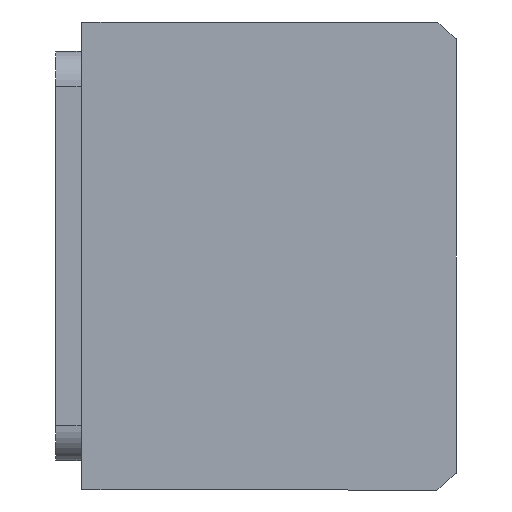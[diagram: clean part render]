
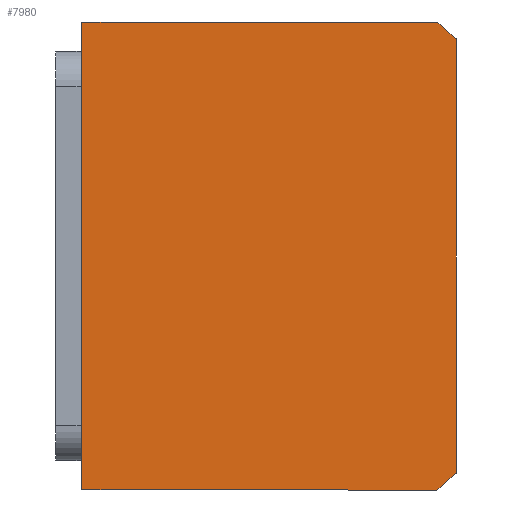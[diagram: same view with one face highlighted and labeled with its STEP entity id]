
A CAD part, front view. The second image highlights one B-rep face of the part: STEP entity #7980.
In plain terms, the highlighted planar face has unit normal (0, -1, 0) as drawn and (0, 0, -1) by its records, which use the part's own axes.
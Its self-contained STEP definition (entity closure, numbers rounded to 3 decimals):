
#222 = DIRECTION ( 'NONE',  ( 0., 1., 0. ) ) ;
#390 = CARTESIAN_POINT ( 'NONE',  ( 37.094, -75.507, 0. ) ) ;
#2356 = LINE ( 'NONE', #3368, #13326 ) ;
#2449 = DIRECTION ( 'NONE',  ( 0., 0., 1. ) ) ;
#2483 = CIRCLE ( 'NONE', #13262, 51. ) ;
#2883 = EDGE_LOOP ( 'NONE', ( #4196, #6240, #6348, #3113, #5682, #13753 ) ) ;
#3113 = ORIENTED_EDGE ( 'NONE', *, *, #3347, .F. ) ;
#3145 = AXIS2_PLACEMENT_3D ( 'NONE', #11965, #2449, #9822 ) ;
#3347 = EDGE_CURVE ( 'NONE', #3544, #9446, #6470, .T. ) ;
#3368 = CARTESIAN_POINT ( 'NONE',  ( -40., -11.507, 0. ) ) ;
#3544 = VERTEX_POINT ( 'NONE', #10928 ) ;
#3768 = CARTESIAN_POINT ( 'NONE',  ( 0., -40.507, 0. ) ) ;
#4196 = ORIENTED_EDGE ( 'NONE', *, *, #5184, .F. ) ;
#4230 = CARTESIAN_POINT ( 'NONE',  ( -40., -11.507, 0. ) ) ;
#4487 = CARTESIAN_POINT ( 'NONE',  ( 0., -40.507, 0. ) ) ;
#4590 = CARTESIAN_POINT ( 'NONE',  ( -40., -11.507, 0. ) ) ;
#4771 = VERTEX_POINT ( 'NONE', #8028 ) ;
#4827 = DIRECTION ( 'NONE',  ( 1., 0., 0. ) ) ;
#5128 = DIRECTION ( 'NONE',  ( 1., 0., 0. ) ) ;
#5184 = EDGE_CURVE ( 'NONE', #13335, #4771, #2483, .T. ) ;
#5404 = FACE_OUTER_BOUND ( 'NONE', #2883, .T. ) ;
#5554 = DIRECTION ( 'NONE',  ( 1., 0., 0. ) ) ;
#5682 = ORIENTED_EDGE ( 'NONE', *, *, #6681, .F. ) ;
#5771 = AXIS2_PLACEMENT_3D ( 'NONE', #3768, #11178, #4827 ) ;
#5986 = VECTOR ( 'NONE', #10579, 1000. ) ;
#6141 = VECTOR ( 'NONE', #222, 1000. ) ;
#6174 = CARTESIAN_POINT ( 'NONE',  ( -40., -75.507, 0. ) ) ;
#6240 = ORIENTED_EDGE ( 'NONE', *, *, #12284, .F. ) ;
#6348 = ORIENTED_EDGE ( 'NONE', *, *, #12957, .F. ) ;
#6405 = CIRCLE ( 'NONE', #5771, 51. ) ;
#6470 = LINE ( 'NONE', #12926, #6141 ) ;
#6681 = EDGE_CURVE ( 'NONE', #11216, #3544, #6405, .T. ) ;
#7375 = LINE ( 'NONE', #6174, #9164 ) ;
#7719 = EDGE_CURVE ( 'NONE', #4771, #11216, #7375, .T. ) ;
#7980 = ADVANCED_FACE ( 'NONE', ( #5404 ), #10880, .F. ) ;
#8028 = CARTESIAN_POINT ( 'NONE',  ( -37.094, -75.507, 0. ) ) ;
#9164 = VECTOR ( 'NONE', #5128, 1000. ) ;
#9446 = VERTEX_POINT ( 'NONE', #13012 ) ;
#9822 = DIRECTION ( 'NONE',  ( 1., 0., 0. ) ) ;
#10579 = DIRECTION ( 'NONE',  ( 0., -1., 0. ) ) ;
#10880 = PLANE ( 'NONE',  #3145 ) ;
#10928 = CARTESIAN_POINT ( 'NONE',  ( 40., -72.145, 0. ) ) ;
#11178 = DIRECTION ( 'NONE',  ( 0., 0., 1. ) ) ;
#11216 = VERTEX_POINT ( 'NONE', #390 ) ;
#11920 = DIRECTION ( 'NONE',  ( 0., 0., 1. ) ) ;
#11965 = CARTESIAN_POINT ( 'NONE',  ( 0., 0., 0. ) ) ;
#12284 = EDGE_CURVE ( 'NONE', #13087, #13335, #12337, .T. ) ;
#12337 = LINE ( 'NONE', #4230, #5986 ) ;
#12926 = CARTESIAN_POINT ( 'NONE',  ( 40., -11.507, 0. ) ) ;
#12942 = DIRECTION ( 'NONE',  ( -1., 0., 0. ) ) ;
#12957 = EDGE_CURVE ( 'NONE', #9446, #13087, #2356, .T. ) ;
#13012 = CARTESIAN_POINT ( 'NONE',  ( 40., -11.507, 0. ) ) ;
#13087 = VERTEX_POINT ( 'NONE', #4590 ) ;
#13262 = AXIS2_PLACEMENT_3D ( 'NONE', #4487, #11920, #5554 ) ;
#13326 = VECTOR ( 'NONE', #12942, 1000. ) ;
#13335 = VERTEX_POINT ( 'NONE', #13515 ) ;
#13515 = CARTESIAN_POINT ( 'NONE',  ( -40., -72.145, 0. ) ) ;
#13753 = ORIENTED_EDGE ( 'NONE', *, *, #7719, .F. ) ;
